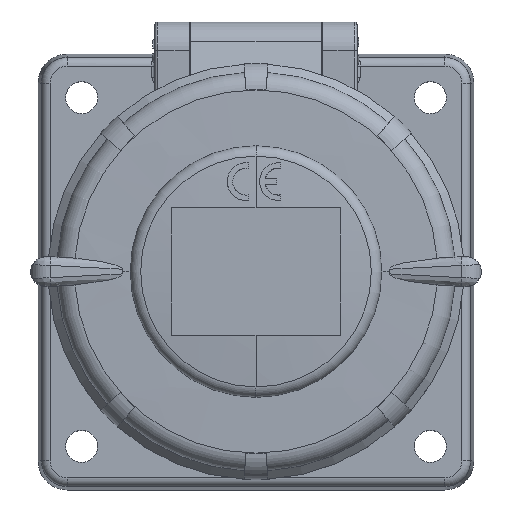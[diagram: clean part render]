
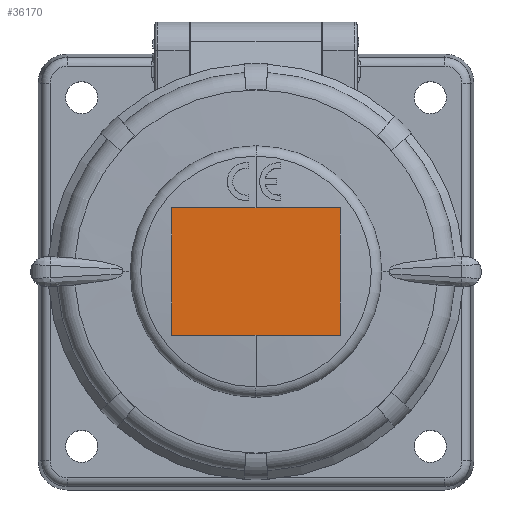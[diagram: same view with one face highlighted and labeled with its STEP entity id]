
A CAD part, top view. The second image highlights one B-rep face of the part: STEP entity #36170.
In plain terms, the highlighted planar face has unit normal (0, 0, 1).
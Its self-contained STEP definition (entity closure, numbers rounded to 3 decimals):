
#3114=DIRECTION('',(0.,-1.,0.));
#3115=VECTOR('',#3114,22.);
#3116=CARTESIAN_POINT('',(-14.5,11.,57.51));
#3117=LINE('4579',#3116,#3115);
#3121=DIRECTION('',(-1.,0.,0.));
#3122=VECTOR('',#3121,29.);
#3123=CARTESIAN_POINT('',(14.5,11.,57.51));
#3124=LINE('4582',#3123,#3122);
#3128=DIRECTION('',(0.,1.,0.));
#3129=VECTOR('',#3128,22.);
#3130=CARTESIAN_POINT('',(14.5,-11.,57.51));
#3131=LINE('4581',#3130,#3129);
#3135=DIRECTION('',(1.,0.,0.));
#3136=VECTOR('',#3135,29.);
#3137=CARTESIAN_POINT('',(-14.5,-11.,57.51));
#3138=LINE('4580',#3137,#3136);
#32455=CARTESIAN_POINT('',(-14.5,11.,57.51));
#32456=CARTESIAN_POINT('',(-14.5,-11.,57.51));
#32457=VERTEX_POINT('',#32455);
#32458=VERTEX_POINT('',#32456);
#32459=CARTESIAN_POINT('',(14.5,-11.,57.51));
#32460=VERTEX_POINT('',#32459);
#32461=CARTESIAN_POINT('',(14.5,11.,57.51));
#32462=VERTEX_POINT('',#32461);
#36158=CARTESIAN_POINT('',(0.,0.,57.51));
#36159=DIRECTION('',(0.,0.,1.));
#36160=DIRECTION('',(1.,0.,0.));
#36161=AXIS2_PLACEMENT_3D('',#36158,#36159,#36160);
#36162=PLANE('1437',#36161);
#36163=ORIENTED_EDGE('4579',*,*,#36038,.F.);
#36164=ORIENTED_EDGE('4582',*,*,#36067,.F.);
#36166=ORIENTED_EDGE('4581',*,*,#36165,.F.);
#36167=ORIENTED_EDGE('4580',*,*,#36138,.F.);
#36168=EDGE_LOOP('1437',(#36163,#36164,#36166,#36167));
#36169=FACE_OUTER_BOUND('1437',#36168,.F.);
#36038=EDGE_CURVE('4579',#32457,#32458,#3117,.T.);
#36067=EDGE_CURVE('4582',#32462,#32457,#3124,.T.);
#36138=EDGE_CURVE('4580',#32458,#32460,#3138,.T.);
#36165=EDGE_CURVE('4581',#32460,#32462,#3131,.T.);
#36170=ADVANCED_FACE('1437',(#36169),#36162,.T.);
